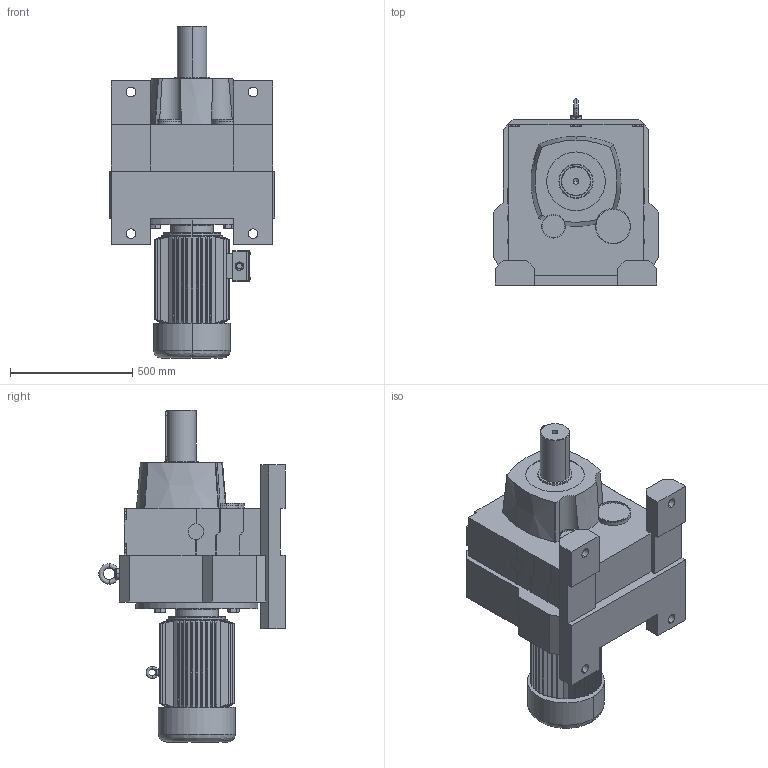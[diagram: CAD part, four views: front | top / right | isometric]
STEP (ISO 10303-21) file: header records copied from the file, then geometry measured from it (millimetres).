
FILE_DESCRIPTION (( 'STEP AP214' ), '1' );
FILE_NAME ('MR167.step', '2020-06-27T03:19:08', ( '' ), ( '' ), 'SwSTEP 2.0', 'SolidWorks 2016', '' );
FILE_SCHEMA (( 'AUTOMOTIVE_DESIGN' ));
Length unit declared in the file: millimetre
Products named in the file (1): MR167
Bounding box: 678 x 763.88 x 1359 mm (x, y, z)
Volume: 220961770.9 mm3; surface area: 4304276.9 mm2
Topology: 3 solids, 3 shells, 940 faces, 2431 edges, 1539 vertices
Faces by surface type: plane 513, cone 168, bspline 130, cylinder 129
Entity records: 43698 total; most frequent: CARTESIAN_POINT 11705, ORIENTED_EDGE 4842, DIRECTION 3929, EDGE_CURVE 2421, VERTEX_POINT 1539, VECTOR 1319, LINE 1319, AXIS2_PLACEMENT_3D 1305
